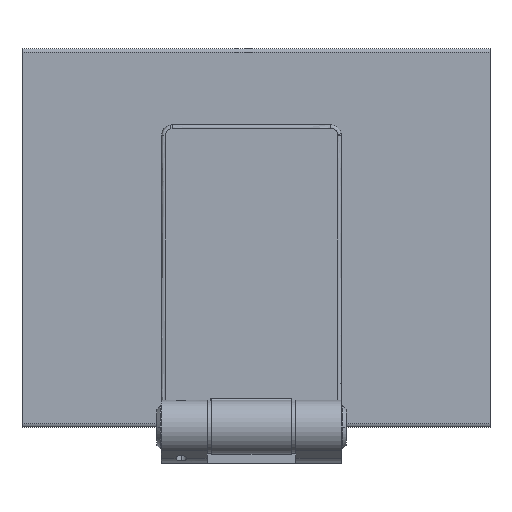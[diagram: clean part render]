
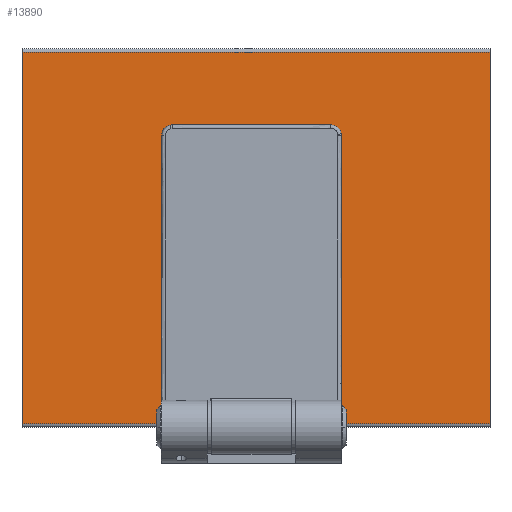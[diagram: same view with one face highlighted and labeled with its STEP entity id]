
A CAD part, top view. The second image highlights one B-rep face of the part: STEP entity #13890.
In plain terms, the highlighted planar face has unit normal (0, 0, 1).
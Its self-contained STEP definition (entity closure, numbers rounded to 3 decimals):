
#13628=DIRECTION('',(1.,0.,0.));
#13629=VECTOR('',#13628,130.);
#13630=CARTESIAN_POINT('',(-20.875,46.181,-36.1));
#13631=LINE('',#13630,#13629);
#13632=DIRECTION('',(0.,1.,0.));
#13633=VECTOR('',#13632,103.198);
#13634=CARTESIAN_POINT('',(-20.875,46.181,-36.1));
#13635=LINE('',#13634,#13633);
#13636=DIRECTION('',(0.,-1.,0.));
#13637=VECTOR('',#13636,103.198);
#13638=CARTESIAN_POINT('',(109.125,149.379,-36.1));
#13639=LINE('',#13638,#13637);
#13640=CARTESIAN_POINT('',(42.875,111.181,-36.1));
#13641=DIRECTION('',(0.,0.,1.));
#13642=DIRECTION('',(-1.,0.,0.));
#13643=AXIS2_PLACEMENT_3D('',#13640,#13641,#13642);
#13645=CARTESIAN_POINT('',(42.875,111.181,-36.1));
#13646=DIRECTION('',(0.,0.,1.));
#13647=DIRECTION('',(1.,0.,0.));
#13648=AXIS2_PLACEMENT_3D('',#13645,#13646,#13647);
#13650=CARTESIAN_POINT('',(42.875,75.181,-36.1));
#13651=DIRECTION('',(0.,0.,1.));
#13652=DIRECTION('',(1.,0.,0.));
#13653=AXIS2_PLACEMENT_3D('',#13650,#13651,#13652);
#13655=CARTESIAN_POINT('',(42.875,75.181,-36.1));
#13656=DIRECTION('',(0.,0.,1.));
#13657=DIRECTION('',(-1.,0.,0.));
#13658=AXIS2_PLACEMENT_3D('',#13655,#13656,#13657);
#13664=DIRECTION('',(-1.,0.,0.));
#13665=VECTOR('',#13664,130.);
#13666=CARTESIAN_POINT('',(109.125,149.379,-36.1));
#13667=LINE('',#13666,#13665);
#13732=CARTESIAN_POINT('',(-20.875,46.181,-36.1));
#13733=VERTEX_POINT('',#13732);
#13734=CARTESIAN_POINT('',(-20.875,149.379,
-36.1));
#13735=VERTEX_POINT('',#13734);
#13750=CARTESIAN_POINT('',(33.875,75.181,-36.1));
#13751=CARTESIAN_POINT('',(51.875,75.181,-36.1));
#13752=VERTEX_POINT('',#13750);
#13753=VERTEX_POINT('',#13751);
#13754=CARTESIAN_POINT('',(109.125,46.181,-36.1));
#13755=VERTEX_POINT('',#13754);
#13756=CARTESIAN_POINT('',(109.125,149.379,-36.1));
#13757=VERTEX_POINT('',#13756);
#13764=CARTESIAN_POINT('',(33.875,111.181,-36.1));
#13765=CARTESIAN_POINT('',(51.875,111.181,-36.1));
#13766=VERTEX_POINT('',#13764);
#13767=VERTEX_POINT('',#13765);
#13865=CARTESIAN_POINT('',(69.125,150.379,
-36.1));
#13866=DIRECTION('',(0.,0.,1.));
#13867=DIRECTION('',(0.,1.,0.));
#13868=AXIS2_PLACEMENT_3D('',#13865,#13866,#13867);
#13869=PLANE('',#13868);
#13870=ORIENTED_EDGE('',*,*,#13785,.T.);
#13872=ORIENTED_EDGE('',*,*,#13871,.F.);
#13874=ORIENTED_EDGE('',*,*,#13873,.T.);
#13875=ORIENTED_EDGE('',*,*,#13858,.F.);
#13876=EDGE_LOOP('',(#13870,#13872,#13874,#13875));
#13877=FACE_OUTER_BOUND('',#13876,.F.);
#13879=ORIENTED_EDGE('',*,*,#13878,.T.);
#13881=ORIENTED_EDGE('',*,*,#13880,.T.);
#13882=EDGE_LOOP('',(#13879,#13881));
#13883=FACE_BOUND('',#13882,.F.);
#13885=ORIENTED_EDGE('',*,*,#13884,.T.);
#13887=ORIENTED_EDGE('',*,*,#13886,.T.);
#13888=EDGE_LOOP('',(#13885,#13887));
#13889=FACE_BOUND('',#13888,.F.);
#13890=ADVANCED_FACE('',(#13877,#13883,#13889),#13869,.T.);
#13644=CIRCLE('',#13643,9.);
#13649=CIRCLE('',#13648,9.);
#13654=CIRCLE('',#13653,9.);
#13659=CIRCLE('',#13658,9.);
#13785=EDGE_CURVE('',#13733,#13735,#13635,.T.);
#13858=EDGE_CURVE('',#13733,#13755,#13631,.T.);
#13871=EDGE_CURVE('',#13757,#13735,#13667,.T.);
#13873=EDGE_CURVE('',#13757,#13755,#13639,.T.);
#13878=EDGE_CURVE('',#13766,#13767,#13644,.T.);
#13880=EDGE_CURVE('',#13767,#13766,#13649,.T.);
#13884=EDGE_CURVE('',#13753,#13752,#13654,.T.);
#13886=EDGE_CURVE('',#13752,#13753,#13659,.T.);
